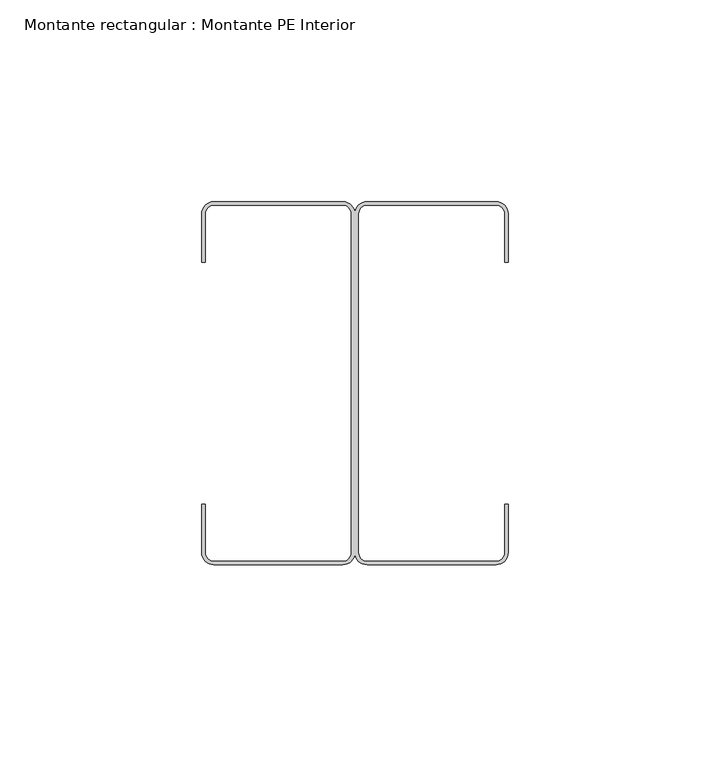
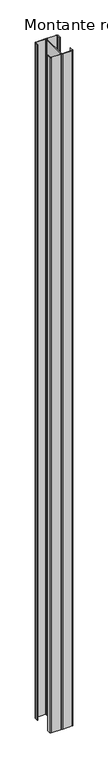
"""IFC4 building model written with IfcOpenShell, lengths in millimetres: member geometry, Montante rectangular : Montante PE Interior."""

from ifc_helpers import new_model, si_unit, point, frame, frame_2d, origin, place, context, project, spatial, polyline, circle_curve, trimmed, segment, composite_curve, outline, extrude, source, transform, mapped, element, save


def montante_rectangular_montante_pe_interior_3dced102(model_context):
    return source(origin(), model_context, "Body", "SweptSolid", [
        extrude(outline(composite_curve([segment(polyline([(38.0, 12.5), (37.15, 12.5), (37.15, 24.45)]), True, "CONTINUOUS"), segment(trimmed(circle_curve(frame_2d((34.95, 24.45)), 2.2), [point((37.15, 24.45))], [point((34.95, 26.65))], True, "CARTESIAN"), True, "CONTINUOUS"), segment(polyline([(34.95, 26.65), (3.05, 26.65)]), True, "CONTINUOUS"), segment(trimmed(circle_curve(frame_2d((3.05, 24.45)), 2.2), [point((3.05, 26.65))], [point((0.85, 24.45))], True, "CARTESIAN"), True, "CONTINUOUS"), segment(polyline([(0.85, 24.45), (0.85, -59.45)]), True, "CONTINUOUS"), segment(trimmed(circle_curve(frame_2d((3.05, -59.45)), 2.2), [point((0.85, -59.45))], [point((3.05, -61.65))], True, "CARTESIAN"), True, "CONTINUOUS"), segment(polyline([(3.05, -61.65), (34.95, -61.65)]), True, "CONTINUOUS"), segment(trimmed(circle_curve(frame_2d((34.95, -59.45)), 2.2), [point((34.95, -61.65))], [point((37.15, -59.45))], True, "CARTESIAN"), True, "CONTINUOUS"), segment(polyline([(37.15, -59.45), (37.15, -47.5), (38.0, -47.5), (38.0, -59.5)]), True, "CONTINUOUS"), segment(trimmed(circle_curve(frame_2d((35.0, -59.5)), 3.0), [point((38.0, -59.5))], [point((35.0, -62.5))], False, "CARTESIAN"), True, "CONTINUOUS"), segment(polyline([(35.0, -62.5), (3.0, -62.5)]), True, "CONTINUOUS"), segment(trimmed(circle_curve(frame_2d((3.0, -59.5)), 3.0), [point((3.0, -62.5))], [point((0.0, -59.5))], False, "CARTESIAN"), True, "CONTINUOUS"), segment(trimmed(circle_curve(frame_2d((-3.0, -59.5)), 3.0), [point((0.0, -59.5))], [point((-3.0, -62.5))], False, "CARTESIAN"), True, "CONTINUOUS"), segment(polyline([(-3.0, -62.5), (-35.0, -62.5)]), True, "CONTINUOUS"), segment(trimmed(circle_curve(frame_2d((-35.0, -59.5)), 3.0), [point((-35.0, -62.5))], [point((-38.0, -59.5))], False, "CARTESIAN"), True, "CONTINUOUS"), segment(polyline([(-38.0, -59.5), (-38.0, -47.5), (-37.15, -47.5), (-37.15, -59.45)]), True, "CONTINUOUS"), segment(trimmed(circle_curve(frame_2d((-34.95, -59.45)), 2.2), [point((-37.15, -59.45))], [point((-34.95, -61.65))], True, "CARTESIAN"), True, "CONTINUOUS"), segment(polyline([(-34.95, -61.65), (-3.05, -61.65)]), True, "CONTINUOUS"), segment(trimmed(circle_curve(frame_2d((-3.05, -59.45)), 2.2), [point((-3.05, -61.65))], [point((-0.85, -59.45))], True, "CARTESIAN"), True, "CONTINUOUS"), segment(polyline([(-0.85, -59.45), (-0.85, 24.45)]), True, "CONTINUOUS"), segment(trimmed(circle_curve(frame_2d((-3.05, 24.45)), 2.2), [point((-0.85, 24.45))], [point((-3.05, 26.65))], True, "CARTESIAN"), True, "CONTINUOUS"), segment(polyline([(-3.05, 26.65), (-34.95, 26.65)]), True, "CONTINUOUS"), segment(trimmed(circle_curve(frame_2d((-34.95, 24.45)), 2.2), [point((-34.95, 26.65))], [point((-37.15, 24.45))], True, "CARTESIAN"), True, "CONTINUOUS"), segment(polyline([(-37.15, 24.45), (-37.15, 12.5), (-38.0, 12.5), (-38.0, 24.5)]), True, "CONTINUOUS"), segment(trimmed(circle_curve(frame_2d((-35.0, 24.5)), 3.0), [point((-38.0, 24.5))], [point((-35.0, 27.5))], False, "CARTESIAN"), True, "CONTINUOUS"), segment(polyline([(-35.0, 27.5), (-3.0, 27.5)]), True, "CONTINUOUS"), segment(trimmed(circle_curve(frame_2d((-3.0, 24.5)), 3.0), [point((-3.0, 27.5))], [point((0.0, 24.5))], False, "CARTESIAN"), True, "CONTINUOUS"), segment(trimmed(circle_curve(frame_2d((3.0, 24.5)), 3.0), [point((0.0, 24.5))], [point((3.0, 27.5))], False, "CARTESIAN"), True, "CONTINUOUS"), segment(polyline([(3.0, 27.5), (35.0, 27.5)]), True, "CONTINUOUS"), segment(trimmed(circle_curve(frame_2d((35.0, 24.5)), 3.0), [point((35.0, 27.5))], [point((38.0, 24.5))], False, "CARTESIAN"), True, "CONTINUOUS"), segment(polyline([(38.0, 24.5), (38.0, 12.5)]), True, "CONTINUOUS")], self_intersect=False)), frame((0.0, 0.0, -2400.0), z_axis=(0.0, 0.0, 1.0), x_axis=(1.0, 0.0, 0.0)), (0.0, 0.0, 1.0), 2400.0),
    ])


if __name__ == "__main__":
    model = new_model("IFC4")
    model_context = context("Model", 3, world=origin())
    ifc_project = project(units=[si_unit("LENGTHUNIT", "METRE", prefix="MILLI")], contexts=[model_context])
    site = spatial("IfcSite", under=ifc_project)
    building = spatial("IfcBuilding", under=site)
    placement = place(None, origin())
    montante_rectangular_montante_pe_interior_shape = montante_rectangular_montante_pe_interior_3dced102(model_context)
    element("IfcMember", 1, ObjectType="Montante rectangular : Montante PE Interior", at=placement, inside=building, context=model_context, shape_type="MappedRepresentation", body=[
        mapped(montante_rectangular_montante_pe_interior_shape, transform((0.0, 0.0, 0.0), x_axis=(1.0, 0.0, 0.0), y_axis=(0.0, 1.0, 0.0), z_axis=(0.0, 0.0, 1.0))),
    ])
    save(model, "model.ifc")
